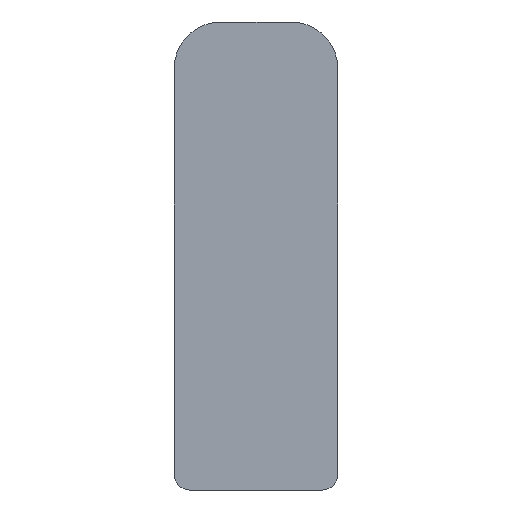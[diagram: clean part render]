
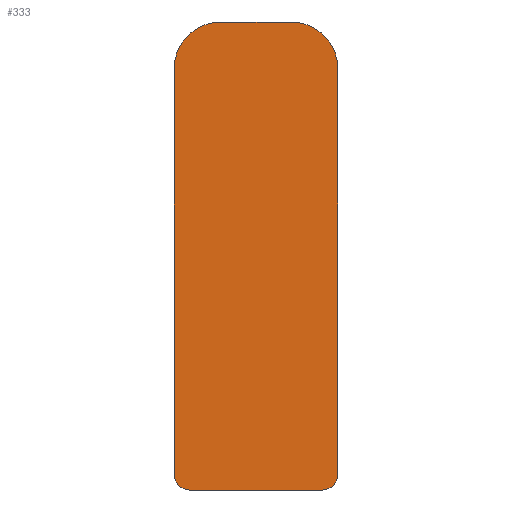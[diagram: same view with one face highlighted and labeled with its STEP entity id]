
A CAD part, left-side view. The second image highlights one B-rep face of the part: STEP entity #333.
In plain terms, the highlighted planar face has unit normal (-1, 0, 0).
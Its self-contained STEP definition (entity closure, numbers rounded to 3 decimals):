
#2 = CIRCLE ( 'NONE', #156, 3. ) ;
#3 = ORIENTED_EDGE ( 'NONE', *, *, #128, .T. ) ;
#9 = ORIENTED_EDGE ( 'NONE', *, *, #133, .T. ) ;
#10 = ORIENTED_EDGE ( 'NONE', *, *, #131, .T. ) ;
#19 = VECTOR ( 'NONE', #325, 1000. ) ;
#20 = LINE ( 'NONE', #326, #19 ) ;
#23 = CIRCLE ( 'NONE', #158, 1. ) ;
#29 = EDGE_LOOP ( 'NONE', ( #75, #76, #77, #78, #79, #3, #10, #9 ) ) ;
#36 = VECTOR ( 'NONE', #240, 1000. ) ;
#37 = LINE ( 'NONE', #244, #36 ) ;
#75 = ORIENTED_EDGE ( 'NONE', *, *, #163, .T. ) ;
#76 = ORIENTED_EDGE ( 'NONE', *, *, #171, .T. ) ;
#77 = ORIENTED_EDGE ( 'NONE', *, *, #174, .T. ) ;
#78 = ORIENTED_EDGE ( 'NONE', *, *, #177, .T. ) ;
#79 = ORIENTED_EDGE ( 'NONE', *, *, #180, .T. ) ;
#90 = VECTOR ( 'NONE', #274, 1000. ) ;
#91 = LINE ( 'NONE', #275, #90 ) ;
#93 = CIRCLE ( 'NONE', #150, 1. ) ;
#109 = FACE_OUTER_BOUND ( 'NONE', #29, .T. ) ;
#115 = CIRCLE ( 'NONE', #152, 3. ) ;
#121 = VECTOR ( 'NONE', #295, 1000. ) ;
#122 = LINE ( 'NONE', #296, #121 ) ;
#128 = EDGE_CURVE ( 'NONE', #320, #328, #37, .T. ) ;
#131 = EDGE_CURVE ( 'NONE', #328, #294, #23, .T. ) ;
#133 = EDGE_CURVE ( 'NONE', #294, #276, #20, .T. ) ;
#147 = AXIS2_PLACEMENT_3D ( 'NONE', #233, #232, #231 ) ;
#150 = AXIS2_PLACEMENT_3D ( 'NONE', #266, #265, #264 ) ;
#152 = AXIS2_PLACEMENT_3D ( 'NONE', #285, #284, #282 ) ;
#156 = AXIS2_PLACEMENT_3D ( 'NONE', #315, #314, #313 ) ;
#158 = AXIS2_PLACEMENT_3D ( 'NONE', #211, #207, #202 ) ;
#163 = EDGE_CURVE ( 'NONE', #276, #327, #2, .T. ) ;
#171 = EDGE_CURVE ( 'NONE', #327, #289, #122, .T. ) ;
#174 = EDGE_CURVE ( 'NONE', #289, #283, #115, .T. ) ;
#177 = EDGE_CURVE ( 'NONE', #283, #286, #91, .T. ) ;
#180 = EDGE_CURVE ( 'NONE', #286, #320, #93, .T. ) ;
#202 = DIRECTION ( 'NONE',  ( 0., 0., -1. ) ) ;
#207 = DIRECTION ( 'NONE',  ( -1., 0., 0. ) ) ;
#211 = CARTESIAN_POINT ( 'NONE',  ( -381.25, -4.25, 1. ) ) ;
#231 = DIRECTION ( 'NONE',  ( 0., 0., 1. ) ) ;
#232 = DIRECTION ( 'NONE',  ( -1., 0., 0. ) ) ;
#233 = CARTESIAN_POINT ( 'NONE',  ( -381.25, -2.25, 27. ) ) ;
#234 = PLANE ( 'NONE',  #147 ) ;
#240 = DIRECTION ( 'NONE',  ( 0., -1., 0. ) ) ;
#244 = CARTESIAN_POINT ( 'NONE',  ( -381.25, -4.25, 0. ) ) ;
#245 = CARTESIAN_POINT ( 'NONE',  ( -381.25, -4.25, 0. ) ) ;
#246 = CARTESIAN_POINT ( 'NONE',  ( -381.25, -2.25, 30. ) ) ;
#248 = CARTESIAN_POINT ( 'NONE',  ( -381.25, 4.25, 0. ) ) ;
#254 = CARTESIAN_POINT ( 'NONE',  ( -381.25, -5.25, 1. ) ) ;
#256 = CARTESIAN_POINT ( 'NONE',  ( -381.25, 2.25, 30. ) ) ;
#257 = CARTESIAN_POINT ( 'NONE',  ( -381.25, 5.25, 1. ) ) ;
#258 = CARTESIAN_POINT ( 'NONE',  ( -381.25, 5.25, 27. ) ) ;
#260 = CARTESIAN_POINT ( 'NONE',  ( -381.25, -5.25, 27. ) ) ;
#264 = DIRECTION ( 'NONE',  ( 0., 0., -1. ) ) ;
#265 = DIRECTION ( 'NONE',  ( -1., 0., 0. ) ) ;
#266 = CARTESIAN_POINT ( 'NONE',  ( -381.25, 4.25, 1. ) ) ;
#274 = DIRECTION ( 'NONE',  ( 0., 0., -1. ) ) ;
#275 = CARTESIAN_POINT ( 'NONE',  ( -381.25, 5.25, 1. ) ) ;
#276 = VERTEX_POINT ( 'NONE', #260 ) ;
#282 = DIRECTION ( 'NONE',  ( 0., 0., -1. ) ) ;
#283 = VERTEX_POINT ( 'NONE', #258 ) ;
#284 = DIRECTION ( 'NONE',  ( -1., 0., 0. ) ) ;
#285 = CARTESIAN_POINT ( 'NONE',  ( -381.25, 2.25, 27. ) ) ;
#286 = VERTEX_POINT ( 'NONE', #257 ) ;
#289 = VERTEX_POINT ( 'NONE', #256 ) ;
#294 = VERTEX_POINT ( 'NONE', #254 ) ;
#295 = DIRECTION ( 'NONE',  ( 0., 1., 0. ) ) ;
#296 = CARTESIAN_POINT ( 'NONE',  ( -381.25, -2.25, 30. ) ) ;
#313 = DIRECTION ( 'NONE',  ( 0., 0., 1. ) ) ;
#314 = DIRECTION ( 'NONE',  ( -1., 0., 0. ) ) ;
#315 = CARTESIAN_POINT ( 'NONE',  ( -381.25, -2.25, 27. ) ) ;
#320 = VERTEX_POINT ( 'NONE', #248 ) ;
#325 = DIRECTION ( 'NONE',  ( 0., 0., 1. ) ) ;
#326 = CARTESIAN_POINT ( 'NONE',  ( -381.25, -5.25, 1. ) ) ;
#327 = VERTEX_POINT ( 'NONE', #246 ) ;
#328 = VERTEX_POINT ( 'NONE', #245 ) ;
#333 = ADVANCED_FACE ( 'NONE', ( #109 ), #234, .T. ) ;
